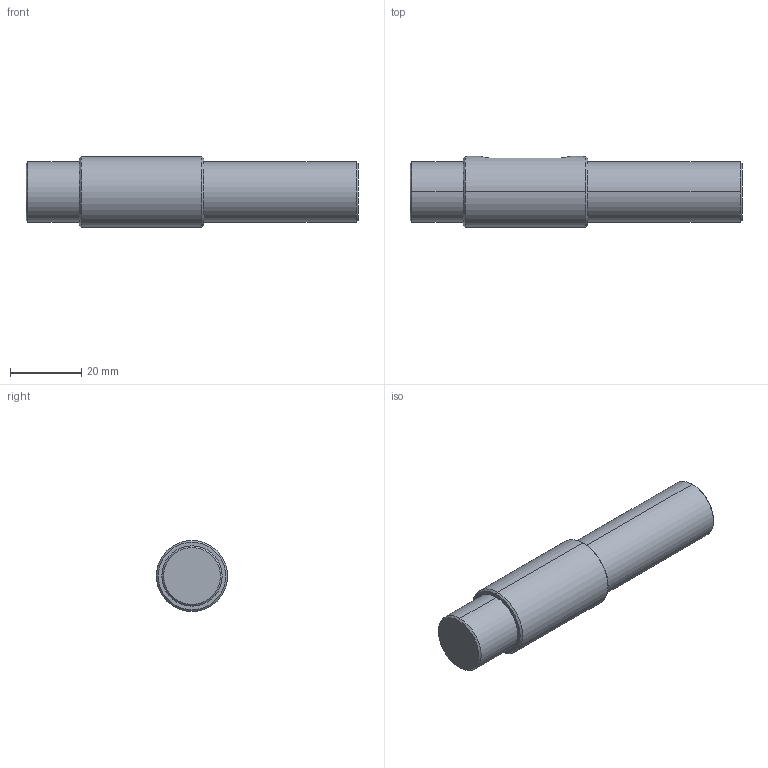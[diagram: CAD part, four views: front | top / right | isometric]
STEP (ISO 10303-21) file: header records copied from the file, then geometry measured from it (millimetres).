
FILE_DESCRIPTION (( 'STEP AP214' ), '1' );
FILE_NAME ('1.8040 Akseli D20_17 L93.5 kiila 6x25.STEP', '2024-03-15T11:04:21', ( '' ), ( '' ), 'SwSTEP 2.0', 'SolidWorks 2024', '' );
FILE_SCHEMA (( 'AUTOMOTIVE_DESIGN' ));
Length unit declared in the file: millimetre
Products named in the file (1): 1.8040 Akseli D20_17 L93.5 kiila 6x25
Bounding box: 93.5 x 20 x 20 mm (x, y, z)
Surface area: 6057.4 mm2 (no closed solid volume)
Topology: 0 solids, 1 shells, 23 faces, 46 edges, 28 vertices
Faces by surface type: cone 8, cylinder 8, plane 7
Entity records: 917 total; most frequent: CARTESIAN_POINT 156, DIRECTION 114, ORIENTED_EDGE 92, AXIS2_PLACEMENT_3D 46, EDGE_CURVE 46, VERTEX_POINT 28, EDGE_LOOP 26, UNCERTAINTY_MEASURE_WITH_UNIT 24
